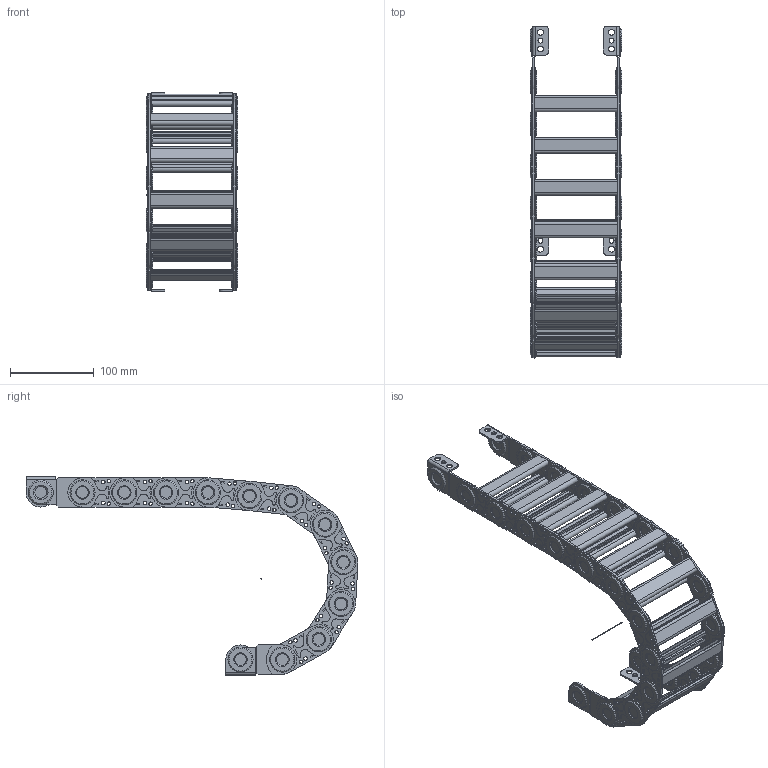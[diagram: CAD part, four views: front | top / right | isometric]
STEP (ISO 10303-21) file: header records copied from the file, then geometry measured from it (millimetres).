
FILE_DESCRIPTION((''),'2;1');
FILE_NAME('C:\Uebbing\TRACE PARTS\SLE\SLE 121\SLE 121 vereinfacht.stp','2013-05-24T11:35:12',('Uebbing'),(''),'Autodesk Inventor 10','Autodesk Inventor 10','');
FILE_SCHEMA(('AUTOMOTIVE_DESIGN { 1 0 10303 214 1 1 1 1 }'));
Length unit declared in the file: millimetre
Products named in the file (10): SLE 121 vereinfacht; Achse; SLE 120 Glied vereinfacht; SLE 120 Hauptlasche vereinfacht; SLE 120 Steg PARAMETRISCH; SLE 120 Anschluss N einfach vereinfacht; SLE 120 Anschlusslasche einfach gekröpft vereinfacht; SLE 120 Anschlusswinkel vereinfacht; SLE 120 Anschluss N doppelt vereinfacht; SLE 120 Anschlusslasche doppelt gekröpft vereinfacht
Assembly tree (25 placements, depth 3):
  SLE 121 vereinfacht
    Achse
    SLE 120 Glied vereinfacht  x10
      SLE 120 Hauptlasche vereinfacht
      SLE 120 Steg PARAMETRISCH
    SLE 120 Anschluss N einfach vereinfacht
      SLE 120 Anschlusslasche einfach gekröpft vereinfacht  x2
      SLE 120 Anschlusswinkel vereinfacht  x2
    SLE 120 Anschluss N doppelt vereinfacht
      SLE 120 Anschlusswinkel vereinfacht  x2
      SLE 120 Anschlusslasche doppelt gekröpft vereinfacht  x2
Bounding box: 109.9 x 397.12 x 236.95 mm (x, y, z)
Volume: 333641.8 mm3; surface area: 389296 mm2
Topology: 49 solids, 49 shells, 1965 faces, 5170 edges, 3399 vertices
Faces by surface type: plane 732, cylinder 659, bspline 514, cone 60
Full cylindrical faces by diameter (mm): 1 x1, 3.85 x20, 4.2 x40, 4.3 x40, 6 x4, 7 x8, 10.15 x4, 10.2 x2, 14 x24, 30 x26
Entity records: 5903 total; most frequent: CARTESIAN_POINT 1295, DIRECTION 925, ORIENTED_EDGE 822, EDGE_CURVE 411, AXIS2_PLACEMENT_3D 334, VERTEX_POINT 288, EDGE_LOOP 257, VECTOR 257
